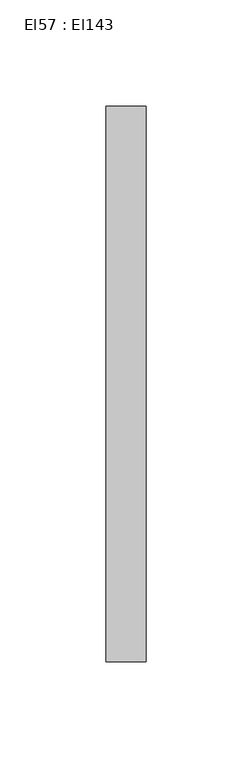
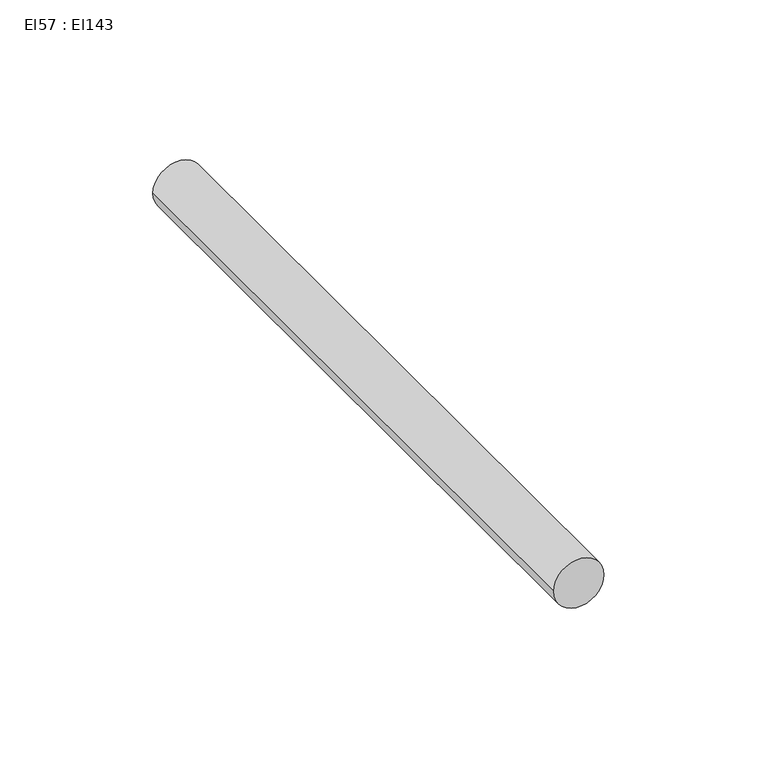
"""IFC4 building model written with IfcOpenShell, lengths in millimetres: cable carrier segment geometry, El57 : El143."""

import ifcopenshell
import ifcopenshell.guid

model = None  # the IFC model being written
_history = None  # IfcOwnerHistory: only IFC2X3 demands one
_inside = {}  # id of a spatial element -> (the spatial element, [elements in it])
_under = {}  # id of a project, library or spatial element -> (it, [spatial elements below it])
_declared = {}  # id of a project -> (the project, [libraries it declares])
_typed = {}  # id of a type object -> (the type object, [elements of that type])
_made_of = {}  # id of a material, layer set ... -> (it, [elements and type objects made of it])


def new_model(schema):
    """Start an empty IFC model of exactly this schema.

    Asked for "IFC4X3", IfcOpenShell would pick the latest addendum, in which some entities
    have other attributes; the version numbers below select the first issue.
    IFC2X3 requires an IfcOwnerHistory on every rooted entity: one is made here for all.
    """
    global model, _history
    if schema == "IFC4X3":
        model = ifcopenshell.file(schema_version=(4, 3, 0, 0))
    else:
        model = ifcopenshell.file(schema=schema)
    _inside.clear()
    _under.clear()
    _declared.clear()
    _typed.clear()
    _made_of.clear()
    _history = None
    if model.schema == "IFC2X3":
        org = make("IfcOrganization", Name="unknown")
        user = make(
            "IfcPersonAndOrganization",
            ThePerson=make("IfcPerson", FamilyName="unknown"),
            TheOrganization=org,
        )
        app = make(
            "IfcApplication",
            ApplicationDeveloper=org,
            Version="unknown",
            ApplicationFullName="unknown",
            ApplicationIdentifier="unknown",
        )
        _history = make(
            "IfcOwnerHistory",
            OwningUser=user,
            OwningApplication=app,
            ChangeAction="ADDED",
            CreationDate=0,
        )
    return model


def make(cls, **values):
    """One entity of the class cls with the attributes given. An attribute that is None is left unset."""
    return model.create_entity(
        cls, **{name: value for name, value in values.items() if value is not None}
    )


def rooted(cls, **values):
    """An entity with a GlobalId (a new one), such as an element, a storey or a relation."""
    return make(cls, GlobalId=ifcopenshell.guid.new(), OwnerHistory=_history, **values)


def si_unit(unit_type, name, prefix=None):
    """IfcSIUnit, for example si_unit("LENGTHUNIT", "METRE", prefix="MILLI")."""
    return make("IfcSIUnit", UnitType=unit_type, Prefix=prefix, Name=name)


def assignment(units):
    """IfcUnitAssignment: the units of a project."""
    return None if units is None else make("IfcUnitAssignment", Units=units)


def point(xyz):
    """IfcCartesianPoint."""
    return None if xyz is None else make("IfcCartesianPoint", Coordinates=xyz)


def direction(xyz):
    """IfcDirection."""
    return None if xyz is None else make("IfcDirection", DirectionRatios=xyz)


def frame(location, z_axis=None, x_axis=None):
    """IfcAxis2Placement3D, a coordinate frame: its origin and axes. An axis left out is left unset."""
    return make(
        "IfcAxis2Placement3D",
        Location=point(location),
        Axis=direction(z_axis),
        RefDirection=direction(x_axis),
    )


def frame_2d(location, x_axis=None):
    """IfcAxis2Placement2D, a coordinate frame in the plane: its origin and x axis."""
    return make(
        "IfcAxis2Placement2D", Location=point(location), RefDirection=direction(x_axis)
    )


def origin():
    """The frame at (0, 0, 0) with its axes left unset."""
    return frame((0.0, 0.0, 0.0))


def place(relative_to, where):
    """IfcLocalPlacement: puts the frame where relative to a parent placement (None: the world)."""
    return make(
        "IfcLocalPlacement", PlacementRelTo=relative_to, RelativePlacement=where
    )


def context(
    kind, dimensions, precision=None, world=None, true_north=None, identifier=None
):
    """IfcGeometricRepresentationContext, for example the 3D "Model" context."""
    return make(
        "IfcGeometricRepresentationContext",
        ContextIdentifier=identifier,
        ContextType=kind,
        CoordinateSpaceDimension=dimensions,
        Precision=precision,
        WorldCoordinateSystem=world,
        TrueNorth=true_north,
    )


def project(units=None, contexts=None):
    """IfcProject with its units and contexts."""
    return rooted(
        "IfcProject",
        Name="project",
        RepresentationContexts=contexts,
        UnitsInContext=assignment(units),
    )


def spatial(cls, under=None, at=None, **own):
    """A site, building, storey or space (cls), placed at a placement, below another one or the project."""
    s = rooted(cls, ObjectPlacement=at, **own)
    if under is not None:
        _under.setdefault(under.id(), (under, []))[1].append(s)
    return s


def circle_curve(where, radius):
    """IfcCircle in the frame where."""
    return make("IfcCircle", Position=where, Radius=radius)


def trimmed(basis, trim1, trim2, sense, master):
    """IfcTrimmedCurve: the piece of a basis curve between two trims."""
    return make(
        "IfcTrimmedCurve",
        BasisCurve=basis,
        Trim1=trim1,
        Trim2=trim2,
        SenseAgreement=sense,
        MasterRepresentation=master,
    )


def segment(curve, same_sense, transition):
    """IfcCompositeCurveSegment."""
    return make(
        "IfcCompositeCurveSegment",
        Transition=transition,
        SameSense=same_sense,
        ParentCurve=curve,
    )


def composite_curve(segments, self_intersect=None):
    """IfcCompositeCurve: segments joined end to end."""
    return make("IfcCompositeCurve", Segments=segments, SelfIntersect=self_intersect)


def outline(outer, holes=None, kind="AREA"):
    """IfcArbitraryClosedProfileDef: a profile drawn as a closed curve; with holes, ...WithVoids."""
    if holes is None:
        return make("IfcArbitraryClosedProfileDef", ProfileType=kind, OuterCurve=outer)
    return make(
        "IfcArbitraryProfileDefWithVoids",
        ProfileType=kind,
        OuterCurve=outer,
        InnerCurves=holes,
    )


def extrude(swept, where, along, depth):
    """IfcExtrudedAreaSolid: the profile swept, set in the frame where, extruded along a direction by depth."""
    return make(
        "IfcExtrudedAreaSolid",
        SweptArea=swept,
        Position=where,
        ExtrudedDirection=direction(along),
        Depth=depth,
    )


def shape(context_of_items, identifier, shape_type, items):
    """IfcShapeRepresentation: the items that make up one representation, for example the "Body"."""
    return make(
        "IfcShapeRepresentation",
        ContextOfItems=context_of_items,
        RepresentationIdentifier=identifier,
        RepresentationType=shape_type,
        Items=items,
    )


def source(mapping_origin, context_of_items, identifier, shape_type, items):
    """IfcRepresentationMap: a shape defined once, which mapped items show again and again."""
    return make(
        "IfcRepresentationMap",
        MappingOrigin=mapping_origin,
        MappedRepresentation=shape(context_of_items, identifier, shape_type, items),
    )


def transform(
    local_origin,
    x_axis=None,
    y_axis=None,
    z_axis=None,
    scale=None,
    scale2=None,
    scale3=None,
    uniform=True,
):
    """IfcCartesianTransformationOperator3D, or its non-uniform kind. x_axis, y_axis, z_axis: its Axis1, 2, 3."""
    if uniform:
        return make(
            "IfcCartesianTransformationOperator3D",
            Axis1=direction(x_axis),
            Axis2=direction(y_axis),
            LocalOrigin=point(local_origin),
            Scale=scale,
            Axis3=direction(z_axis),
        )
    return make(
        "IfcCartesianTransformationOperator3DnonUniform",
        Axis1=direction(x_axis),
        Axis2=direction(y_axis),
        LocalOrigin=point(local_origin),
        Scale=scale,
        Axis3=direction(z_axis),
        Scale2=scale2,
        Scale3=scale3,
    )


def mapped(mapping_source, mapping_target):
    """IfcMappedItem: shows the shape of a source again, moved by a transform."""
    return make(
        "IfcMappedItem", MappingSource=mapping_source, MappingTarget=mapping_target
    )


def made_of(thing, what):
    """Note that an element or type object is made of a material, layer set ...; save() writes the relation."""
    if what is not None:
        _made_of.setdefault(what.id(), (what, []))[1].append(thing)
    return thing


def element(
    cls,
    number,
    at=None,
    inside=None,
    cuts=None,
    type_object=None,
    material=None,
    context=None,
    identifier="Body",
    shape_type=None,
    held_by="IfcProductDefinitionShape",
    body=None,
    shapes=None,
    **own,
):
    """One element of the class cls, such as IfcWall. Its Tag is "e" and its number.

    at: its placement. inside: the storey or other place that contains it. cuts: it is an
    opening in that element (IfcRelVoidsElement). A single representation is given by context,
    identifier, shape_type and body (its items); several are given by shapes. held_by: the class
    of the entity that holds the representations. save() writes the other relations.
    """
    e = rooted(cls, Tag="e%d" % number, ObjectPlacement=at, **own)
    if body is not None:
        shapes = [shape(context, identifier, shape_type, body)]
    if shapes is not None:
        e.Representation = make(held_by, Representations=shapes)
    if inside is not None:
        _inside.setdefault(inside.id(), (inside, []))[1].append(e)
    if cuts is not None:
        rooted(
            "IfcRelVoidsElement", RelatingBuildingElement=cuts, RelatedOpeningElement=e
        )
    if type_object is not None:
        _typed.setdefault(type_object.id(), (type_object, []))[1].append(e)
    return made_of(e, material)


def aggregate(whole, parts):
    """IfcRelAggregates: a whole, such as a stair, and the parts it consists of."""
    return rooted("IfcRelAggregates", RelatingObject=whole, RelatedObjects=parts)


def save(model, path):
    """Write the relations noted so far, then the file.

    IfcRelAggregates (storeys below a building ...), IfcRelContainedInSpatialStructure (elements
    in a storey), IfcRelDefinesByType, IfcRelAssociatesMaterial and IfcRelDeclares: one each for
    every whole, place, type object, material and project.
    """
    for whole, parts in _under.values():
        aggregate(whole, parts)
    for where, things in _inside.values():
        rooted(
            "IfcRelContainedInSpatialStructure",
            RelatedElements=things,
            RelatingStructure=where,
        )
    for kind, things in _typed.values():
        rooted("IfcRelDefinesByType", RelatedObjects=things, RelatingType=kind)
    for what, things in _made_of.values():
        rooted("IfcRelAssociatesMaterial", RelatedObjects=things, RelatingMaterial=what)
    for by, libraries in _declared.values():
        rooted("IfcRelDeclares", RelatingContext=by, RelatedDefinitions=libraries)
    model.write(path)


def el57_el143_878d4ac9(model_context):
    return source(origin(), model_context, "Body", "SweptSolid", [
        extrude(outline(composite_curve([segment(trimmed(circle_curve(frame_2d((1800.0, 22494.4746511)), 9.5), [point((1800.0, 22484.9746511))], [point((1800.0, 22503.9746511))], False, "CARTESIAN"), True, "CONTINUOUS"), segment(trimmed(circle_curve(frame_2d((1800.0, 22494.4746511)), 9.5), [point((1800.0, 22503.9746511))], [point((1800.0, 22484.9746511))], False, "CARTESIAN"), True, "CONTINUOUS")], self_intersect=False)), frame((0.0, 1691.3211745, 0.0), z_axis=(0.0, 1.0, 0.0), x_axis=(0.0, 0.0, 1.0)), (0.0, 0.0, 1.0), 261.982),
    ])


if __name__ == "__main__":
    model = new_model("IFC4")
    model_context = context("Model", 3, world=origin())
    ifc_project = project(units=[si_unit("LENGTHUNIT", "METRE", prefix="MILLI")], contexts=[model_context])
    site = spatial("IfcSite", under=ifc_project)
    building = spatial("IfcBuilding", under=site)
    placement = place(None, origin())
    el57_el143_shape = el57_el143_878d4ac9(model_context)
    element("IfcCableCarrierSegment", 1, ObjectType="El57 : El143", at=placement, inside=building, context=model_context, shape_type="MappedRepresentation", body=[
        mapped(el57_el143_shape, transform((0.0, 0.0, 0.0), x_axis=(1.0, 0.0, 0.0), y_axis=(0.0, 1.0, 0.0), z_axis=(0.0, 0.0, 1.0))),
    ])
    save(model, "model.ifc")
